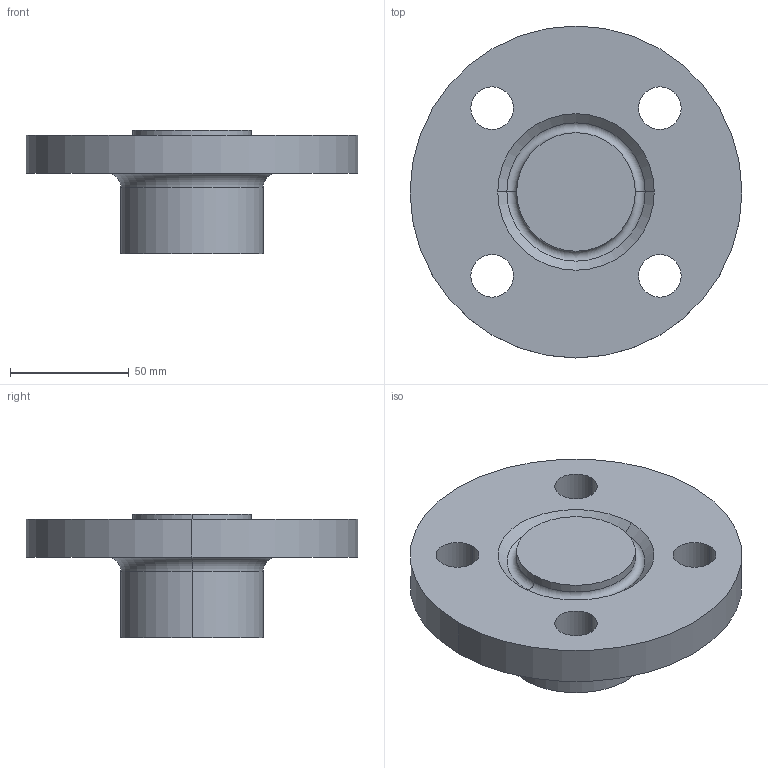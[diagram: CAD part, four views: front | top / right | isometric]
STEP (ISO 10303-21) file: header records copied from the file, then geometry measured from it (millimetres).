
FILE_DESCRIPTION (( 'STEP AP214' ), '1' );
FILE_NAME ('PN40 DN32 Type 21(i) - Type H Face.STEP', '2018-12-29T23:46:50', ( '' ), ( '' ), 'SwSTEP 2.0', 'SolidWorks 2019', '' );
FILE_SCHEMA (( 'AUTOMOTIVE_DESIGN' ));
Length unit declared in the file: millimetre
Products named in the file (1): PN40 DN32 Type 21(i) - Type H Face
Bounding box: 140 x 140 x 52 mm (x, y, z)
Volume: 327802.2 mm3; surface area: 46400.1 mm2
Topology: 1 solids, 1 shells, 24 faces, 54 edges, 34 vertices
Faces by surface type: cylinder 14, torus 4, plane 4, cone 2
Entity records: 738 total; most frequent: DIRECTION 142, CARTESIAN_POINT 113, ORIENTED_EDGE 108, AXIS2_PLACEMENT_3D 63, EDGE_CURVE 54, CIRCLE 38, VERTEX_POINT 34, EDGE_LOOP 34
